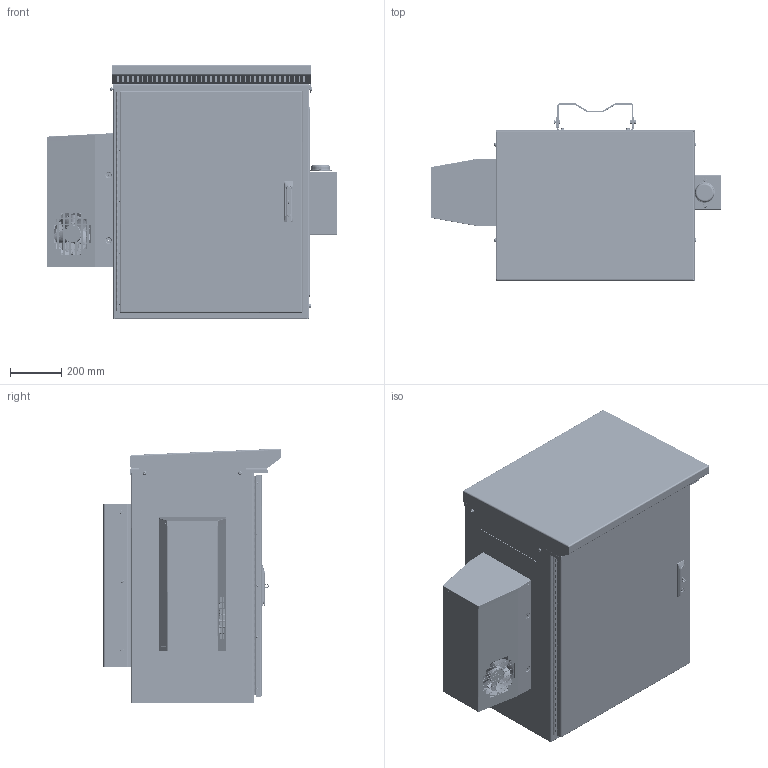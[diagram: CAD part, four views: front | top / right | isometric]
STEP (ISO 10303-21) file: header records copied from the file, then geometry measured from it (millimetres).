
FILE_DESCRIPTION(/* description */ ('STEP AP242','CAx-IF Rec.Pracs.---Representation and Presentation of Product Manufacturing Information (PMI)---4.0---2014-10-13','CAx-IF Rec.Pracs.---3D Tessellated Geometry---0.4---2014-09-14','2;1'),/* implementation_level */ '2;1');
FILE_NAME(/* name */ '67226dec41bec25d01508cb5',/* time_stamp */ '2024-10-30T17:33:54Z',/* author */ (''),/* organization */ (''),/* preprocessor_version */ 'ST-DEVELOPER v20',/* originating_system */ ' ',/* authorisation */ ' ');
FILE_SCHEMA (('AP242_MANAGED_MODEL_BASED_3D_ENGINEERING_MIM_LF { 1 0 10303 442 1 1 4 }'));
Products named in the file (262): AD-158 - Rev A - CORE 36 x 30 x 20 Cabinet with 19
 Equipment Rack; Heavy-duty spring lock washer 1/4; Hex machine screw nut #10-32; Hex bolt 5/16-18 x 0.75; Pan head machine screw 1/4-20 x 0.375; Heavy-duty spring lock washer #10; Heavy-duty spring lock washer 5/16; Pole Mount Bracket; 7159K91_Straight-Blade Receptacle; Left Cabinet Mounting Bracket; Hex machine screw nut 5/16-18; Hex machine screw nut 1/4-20; Socket button head cap screw 5/16-18 x 0.75; MALE_FEMALE_STANDOFF; Part 2; Bolt (4); Type A flat washer 5/16; Cone point hex socket set screw 5/16-18 x 0.25; Pan head machine screw #8-32 x 0.375; Aluminum Back Plate; Cover for Outlet Box; B-130; P-149 <1>; PEM FHS-0420-8  ; PEM FHS-032-8  ; P-149; P-148 <1>; P-148; Right Cabinet Mounting Bracket; Outlet Box; AC Unit <1>; AN02R____B; 36" x 30" x 20" Aluminum CORE Cabinet - Blank Assembly <2>; SierraPacific-179P-10; Heavy-duty spring lock washer #8; Hex machine screw nut #8-32; Wire Guide; Type A flat washer 1/4; Pressure Relief Valve; Door Alarm Switch <1> ...
Assembly tree (821 placements, depth 5):
  AD-158 - Rev A - CORE 36 x 30 x 20 Cabinet with 19
 Equipment Rack
    Heavy-duty spring lock washer 1/4  x12
    Hex machine screw nut #10-32  x24
    Hex bolt 5/16-18 x 0.75  x12
    Pan head machine screw 1/4-20 x 0.375  x6
    Heavy-duty spring lock washer #10  x24
    Heavy-duty spring lock washer 5/16  x16
    Pole Mount Bracket
    7159K91_Straight-Blade Receptacle  x2
    7159K91_Straight-Blade Receptacle  x2
    Left Cabinet Mounting Bracket
    Hex machine screw nut 5/16-18  x12
    Hex machine screw nut 1/4-20  x6
    Socket button head cap screw 5/16-18 x 0.75  x4
    MALE_FEMALE_STANDOFF  x6
    Part 2
    Bolt (4)
    Type A flat washer 5/16  x6
    Cone point hex socket set screw 5/16-18 x 0.25  x4
    Pan head machine screw #8-32 x 0.375  x6
    Aluminum Back Plate
    Cover for Outlet Box
    B-130
    P-149 <1>
      PEM FHS-0420-8    x5
      PEM FHS-032-8    x12
      P-149
    P-148 <1>
      PEM FHS-032-8    x12
      P-148
    Right Cabinet Mounting Bracket
    Outlet Box
    AC Unit <1>
      AN02R____B
      AN02R____B
      AN02R____B
      AN02R____B
      AN02R____B
      AN02R____B
      AN02R____B
      AN02R____B
      AN02R____B
      AN02R____B
      AN02R____B
      AN02R____B
      AN02R____B
      AN02R____B
      AN02R____B
      AN02R____B
      AN02R____B
      AN02R____B
      AN02R____B
      AN02R____B
      AN02R____B
      AN02R____B
      AN02R____B
      AN02R____B
      AN02R____B
      AN02R____B
      AN02R____B
Bounding box: 1131.22 x 689.44 x 990.35 mm (x, y, z)
Volume: 20012437.7 mm3; surface area: 15140118.8 mm2
Topology: 687 solids, 807 shells, 31094 faces, 87409 edges, 57880 vertices
Faces by surface type: plane 14819, cylinder 9027, cone 3237, torus 1990, bspline 1678, sphere 343
Full cylindrical faces by diameter (mm): 0.635 x16, 0.813 x4, 0.814 x4, 1.338 x1, 1.372 x3, 1.778 x2, 2.5 x1, 2.769 x6, 2.9 x1, 2.997 x6, 3 x5, 3.048 x20, 3.1 x2, 3.175 x22, 3.2 x4, 3.3 x1, 3.302 x6, 3.48 x16, 3.81 x20, 3.962 x55, 3.988 x4, 4 x9, 4.039 x8, 4.064 x8, 4.128 x1, 4.14 x2, 4.166 x14, 4.2 x3, 4.201 x4, 4.293 x4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
Entity records: 471808 total; most frequent: CARTESIAN_POINT 203667, DIRECTION 52096, ORIENTED_EDGE 51800, EDGE_CURVE 28047, VERTEX_POINT 19218, AXIS2_PLACEMENT_3D 18319, LINE 15458, VECTOR 15458
